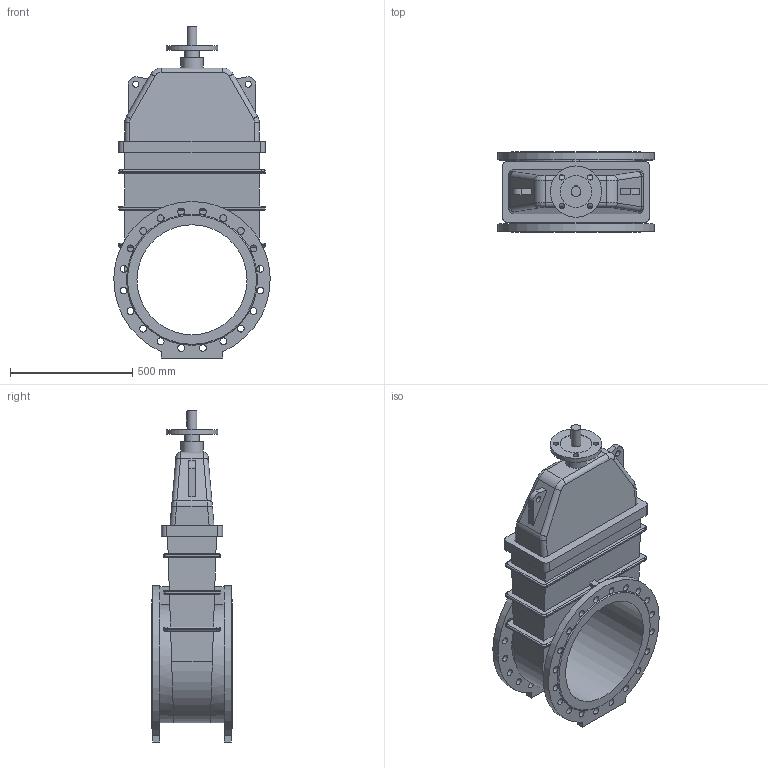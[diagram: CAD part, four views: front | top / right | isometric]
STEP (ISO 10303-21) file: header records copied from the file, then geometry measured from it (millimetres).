
FILE_DESCRIPTION(('STEP AP203'), '1');
FILE_NAME('Çàäâèæêà 47GVA DN450 PN10 áåç èñïîëíèò. ìåõ.', '', ('UNSPECIFIED'), ('UNSPECIFIED'), 'ASCON STEP Converter 1.6', 'ASCON Math Kernel', '');
FILE_SCHEMA(('CONFIG_CONTROL_DESIGN'));
Length unit declared in the file: millimetre
Bounding box: 639.72 x 330 x 1358 mm (x, y, z)
Volume: 86071880.4 mm3; surface area: 3020521.8 mm2
Topology: 1 solids, 1 shells, 269 faces, 678 edges, 430 vertices
Faces by surface type: cylinder 131, plane 104, bspline 32, cone 2
Full cylindrical faces by diameter (mm): 22 x4, 25 x2, 28 x40, 40 x1, 60 x1, 90 x1, 130 x1, 210 x1, 450 x1
Entity records: 12986 total; most frequent: CARTESIAN_POINT 4550, ORIENTED_EDGE 1248, DIRECTION 1220, EDGE_CURVE 624, AXIS2_PLACEMENT_3D 452, EDGE_LOOP 436, VERTEX_POINT 430, FACE_BOUND 328
